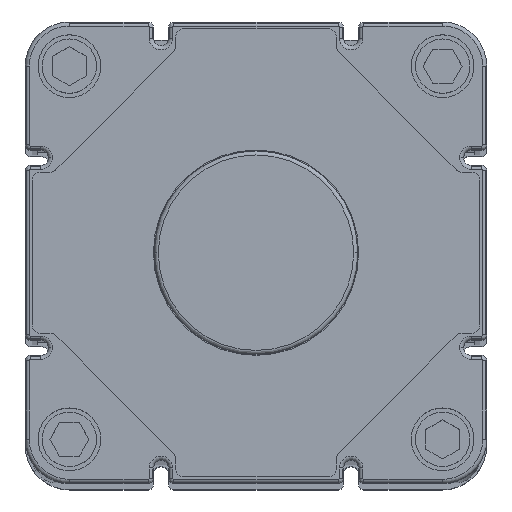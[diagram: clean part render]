
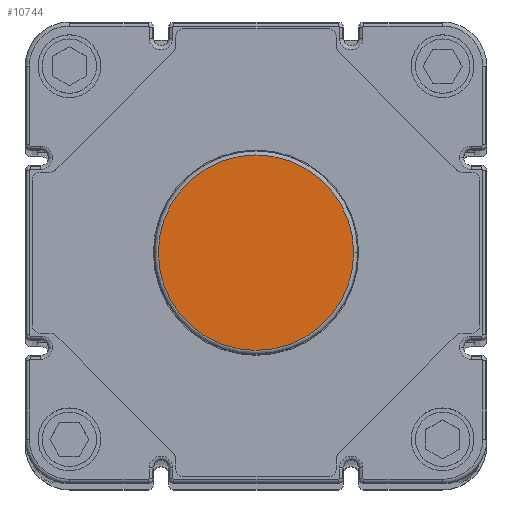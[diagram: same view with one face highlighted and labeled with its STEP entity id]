
A CAD part, top view. The second image highlights one B-rep face of the part: STEP entity #10744.
In plain terms, the highlighted planar face has unit normal (0, 0, 1).
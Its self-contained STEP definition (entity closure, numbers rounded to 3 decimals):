
#4200=CARTESIAN_POINT('',(-51.3,22.5,1073.5));
#4201=VERTEX_POINT('',#4200);
#4209=CARTESIAN_POINT('',(6.3,22.5,1073.5));
#4210=VERTEX_POINT('',#4209);
#4211=CARTESIAN_POINT('',(-22.5,22.5,1073.5));
#4212=DIRECTION('',(0.0,0.0,-1.0));
#4213=DIRECTION('',(-1.0,0.0,0.0));
#4214=AXIS2_PLACEMENT_3D('',#4211,#4212,#4213);
#4215=CIRCLE('',#4214,28.8);
#4216=EDGE_CURVE('',#4201,#4210,#4215,.T.);
#10713=CARTESIAN_POINT('',(-22.5,22.5,1073.5));
#10714=DIRECTION('',(0.0,0.0,-1.0));
#10715=DIRECTION('',(-1.0,0.0,0.0));
#10716=AXIS2_PLACEMENT_3D('',#10713,#10714,#10715);
#10717=CIRCLE('',#10716,28.8);
#10718=EDGE_CURVE('',#4210,#4201,#10717,.T.);
#10735=CARTESIAN_POINT('',(21.25,-21.25,1073.5));
#10736=DIRECTION('',(0.0,0.0,1.0));
#10737=DIRECTION('',(1.0,0.0,0.0));
#10738=AXIS2_PLACEMENT_3D('',#10735,#10736,#10737);
#10739=PLANE('',#10738);
#10740=ORIENTED_EDGE('',*,*,#10718,.F.);
#10741=ORIENTED_EDGE('',*,*,#4216,.F.);
#10742=EDGE_LOOP('',(#10740,#10741));
#10743=FACE_OUTER_BOUND('',#10742,.T.);
#10744=ADVANCED_FACE('',(#10743),#10739,.T.);
